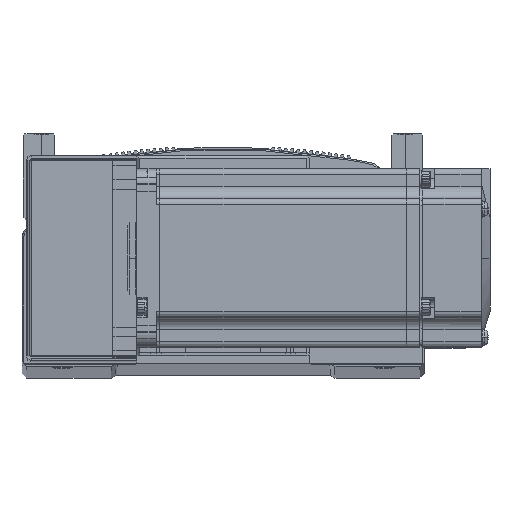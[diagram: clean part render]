
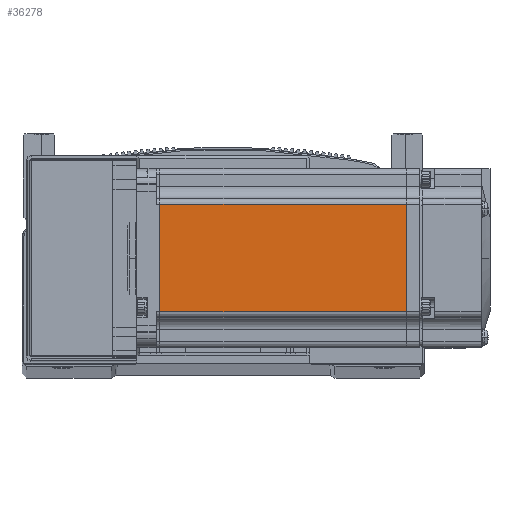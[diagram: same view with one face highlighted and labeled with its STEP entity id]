
A CAD part, top view. The second image highlights one B-rep face of the part: STEP entity #36278.
In plain terms, the highlighted planar face has unit normal (0, 0, 1) as drawn and (0, 0, -1) by its records, which use the part's own axes.
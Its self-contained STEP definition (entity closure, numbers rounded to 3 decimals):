
#1103 = CARTESIAN_POINT ( 'NONE',  ( -7.75, -18., -30. ) ) ;
#1108 = CARTESIAN_POINT ( 'NONE',  ( -90.45, 18., -30. ) ) ;
#1116 = CARTESIAN_POINT ( 'NONE',  ( -7.75, 18., -30. ) ) ;
#1127 = CARTESIAN_POINT ( 'NONE',  ( -90.45, -18., -30. ) ) ;
#14056 = EDGE_LOOP ( 'NONE', ( #66399, #66264, #66448, #66256 ) ) ;
#33258 = AXIS2_PLACEMENT_3D ( 'NONE', #41609, #41594, #41634 ) ;
#36278 = ADVANCED_FACE ( 'NONE', ( #55609 ), #41628, .T. ) ;
#41594 = DIRECTION ( 'NONE',  ( 0., 0., -1. ) ) ;
#41609 = CARTESIAN_POINT ( 'NONE',  ( -6.5, 25., -30. ) ) ;
#41628 = PLANE ( 'NONE',  #33258 ) ;
#41634 = DIRECTION ( 'NONE',  ( -1., 0., 0. ) ) ;
#55609 = FACE_OUTER_BOUND ( 'NONE', #14056, .T. ) ;
#66256 = ORIENTED_EDGE ( 'NONE', *, *, #82230, .T. ) ;
#66264 = ORIENTED_EDGE ( 'NONE', *, *, #82251, .T. ) ;
#66399 = ORIENTED_EDGE ( 'NONE', *, *, #82217, .T. ) ;
#66448 = ORIENTED_EDGE ( 'NONE', *, *, #82201, .T. ) ;
#68027 = LINE ( 'NONE', #71599, #68040 ) ;
#68035 = VECTOR ( 'NONE', #71646, 1000. ) ;
#68036 = LINE ( 'NONE', #71655, #68035 ) ;
#68040 = VECTOR ( 'NONE', #71588, 1000. ) ;
#68081 = LINE ( 'NONE', #71665, #68091 ) ;
#68085 = LINE ( 'NONE', #71709, #68113 ) ;
#68091 = VECTOR ( 'NONE', #71700, 1000. ) ;
#68113 = VECTOR ( 'NONE', #71723, 1000. ) ;
#70651 = VERTEX_POINT ( 'NONE', #1108 ) ;
#70659 = VERTEX_POINT ( 'NONE', #1127 ) ;
#70665 = VERTEX_POINT ( 'NONE', #1103 ) ;
#70670 = VERTEX_POINT ( 'NONE', #1116 ) ;
#71588 = DIRECTION ( 'NONE',  ( 0., 1., 0. ) ) ;
#71599 = CARTESIAN_POINT ( 'NONE',  ( -90.45, 25., -30. ) ) ;
#71646 = DIRECTION ( 'NONE',  ( 0., -1., 0. ) ) ;
#71655 = CARTESIAN_POINT ( 'NONE',  ( -7.75, 25., -30. ) ) ;
#71665 = CARTESIAN_POINT ( 'NONE',  ( -6.5, 18., -30. ) ) ;
#71700 = DIRECTION ( 'NONE',  ( 1., 0., 0. ) ) ;
#71709 = CARTESIAN_POINT ( 'NONE',  ( -6.5, -18., -30. ) ) ;
#71723 = DIRECTION ( 'NONE',  ( -1., 0., 0. ) ) ;
#82201 = EDGE_CURVE ( 'NONE', #70659, #70651, #68027, .T. ) ;
#82217 = EDGE_CURVE ( 'NONE', #70670, #70665, #68036, .T. ) ;
#82230 = EDGE_CURVE ( 'NONE', #70651, #70670, #68081, .T. ) ;
#82251 = EDGE_CURVE ( 'NONE', #70665, #70659, #68085, .T. ) ;
